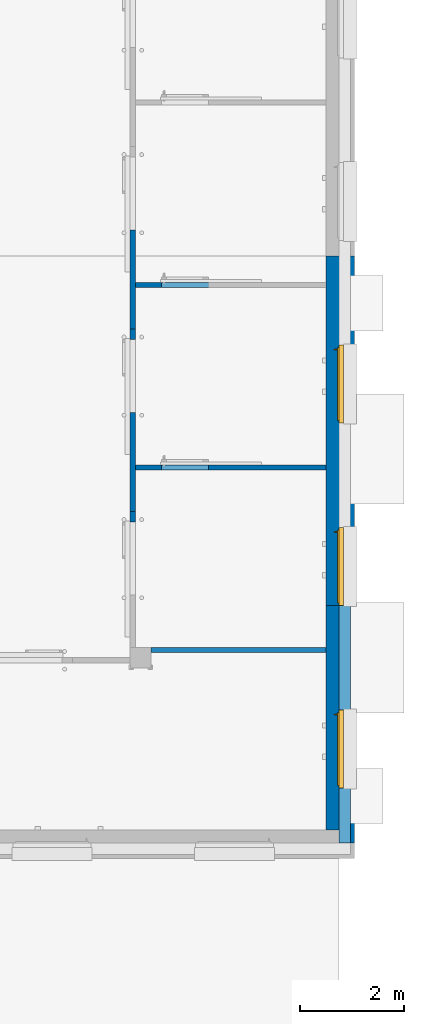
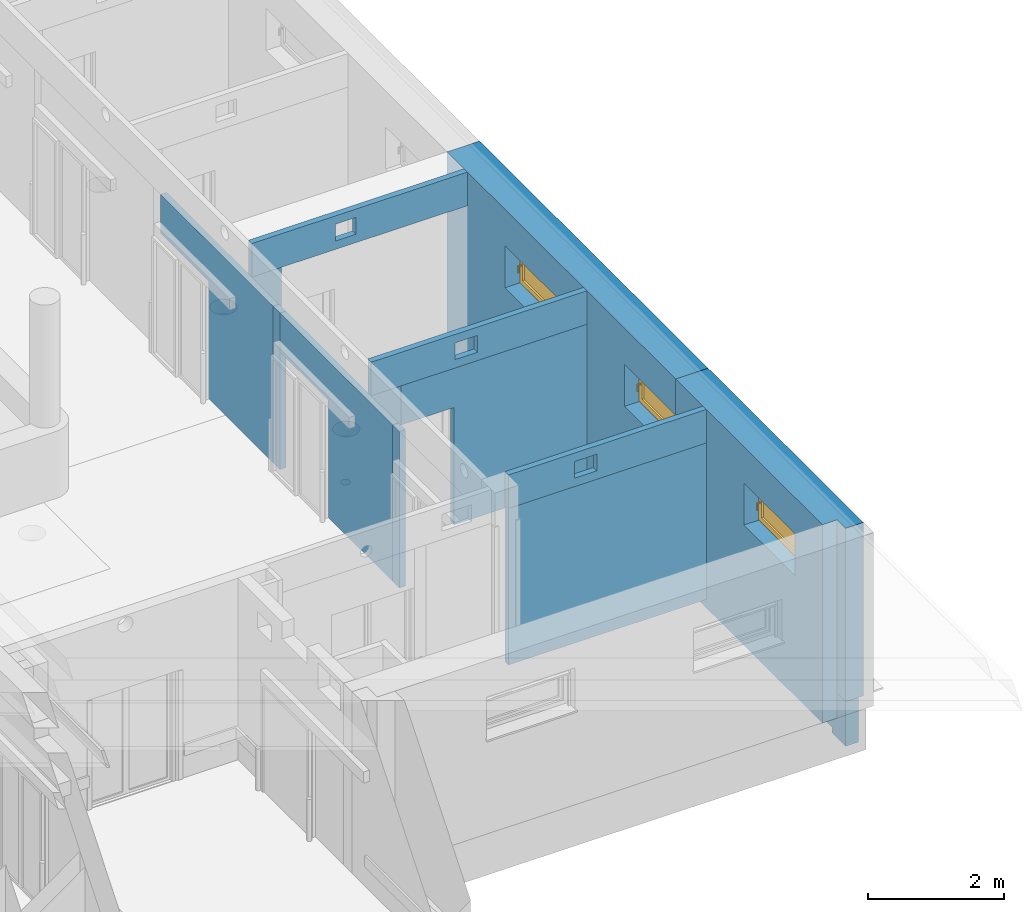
# One storey, part 57 of 140: 14 walls, 3 windows, 10 openings.
"""IFC4 building model written with IfcOpenShell, lengths in metres."""

from ifc_helpers import new_model, entity, si_unit, converted_unit, derived_unit, frame, frame_2d, origin, origin_with_axes, place, context, subcontext, project, spatial, polyline, rectangle, outline, extrude, clip, bounded_halfspace, closed_shell, open_shell, surface_model, source, transform, mapped, material, layer, layer_set, layer_usage, element, fill, save


model = new_model("IFC4")

# Units and contexts
model_context = context("Model", 3, precision=1e-05, world=origin())
body_context = subcontext(model_context, "Body", "Model", "MODEL_VIEW")
ifc_project = project(units=[si_unit("LENGTHUNIT", "METRE"), si_unit("AREAUNIT", "SQUARE_METRE"), si_unit("VOLUMEUNIT", "CUBIC_METRE"), si_unit("MASSUNIT", "GRAM", prefix="KILO"), converted_unit("PLANEANGLEUNIT", "DEGREE", entity("IfcPlaneAngleMeasure", 0.0174532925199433), si_unit("PLANEANGLEUNIT", "RADIAN"), dimensions=[0, 0, 0, 0, 0, 0, 0]), derived_unit("THERMALTRANSMITTANCEUNIT", [(si_unit("POWERUNIT", "WATT"), 1), (si_unit("THERMODYNAMICTEMPERATUREUNIT", "KELVIN"), -1), (si_unit("LENGTHUNIT", "METRE"), -2)]), derived_unit("VOLUMETRICFLOWRATEUNIT", [(si_unit("LENGTHUNIT", "METRE"), 3), (converted_unit("TIMEUNIT", "hour", entity("IfcTimeMeasure", 3600.0), si_unit("TIMEUNIT", "SECOND"), dimensions=[0, 0, 1, 0, 0, 0, 0]), -1), (si_unit("LENGTHUNIT", "METRE"), -1)])], contexts=[model_context])

# Site, building, storey
site_placement = place(None, origin())
site = spatial("IfcSite", under=ifc_project, at=site_placement, Name="3. ASŘ", CompositionType="ELEMENT")
building_placement = place(site_placement, origin())
building = spatial("IfcBuilding", under=site, at=building_placement, Name="Pavilon C", CompositionType="ELEMENT")
storey_placement = place(building_placement, origin())
storey = spatial("IfcBuildingStorey", under=building, at=storey_placement, Name="Půdorys 1.NP", CompositionType="ELEMENT", Elevation=0.0)

# Walls
ifc_material_1 = material(Name="PROSKLENÁ PŘÍČKA DVOJITÁ")
ifc_layer_1 = layer(ifc_material_1, 0.1)
ifc_layer_set_1 = layer_set([ifc_layer_1])
ifc_layer_usage_1 = layer_usage(ifc_layer_set_1, "AXIS2", "POSITIVE", 0.0)
wall_1_placement = place(storey_placement, frame((60.2, 9.99999999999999, 0.0)))
element("IfcWall", 1, at=wall_1_placement, inside=storey, material=ifc_layer_usage_1, Name="PROSKLENÁ PŘÍČKA DVOJITÁ", context=body_context, shape_type="SweptSolid", body=[
    extrude(rectangle(XDim=3.34999999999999, YDim=0.1, at=frame_2d((1.675, 0.05), x_axis=(1.0, 0.0))), origin_with_axes(), (0.0, 0.0, 1.0), 2.8),
])
ifc_material_2 = material(Name="PROSKLENÁ PŘÍČKA PLNÝ PANEL")
ifc_layer_2 = layer(ifc_material_2, 0.1)
ifc_layer_set_2 = layer_set([ifc_layer_2])
ifc_layer_usage_2 = layer_usage(ifc_layer_set_2, "AXIS2", "POSITIVE", 0.0)
wall_2_placement = place(storey_placement, frame((59.9, 12.5, 0.0), z_axis=(0.0, 0.0, 1.0), x_axis=(0.0, 1.0, 0.0)))
element("IfcWall", 2, at=wall_2_placement, inside=storey, material=ifc_layer_usage_2, Name="PROSKLENÁ PŘÍČKA DVOJITÁ", context=body_context, shape_type="SweptSolid", body=[
    extrude(rectangle(XDim=0.2, YDim=0.1, at=frame_2d((0.1, 0.05), x_axis=(1.0, 0.0))), origin_with_axes(), (0.0, 0.0, 1.0), 2.8),
])
ifc_material_3 = material(Name="PROSKLENÁ PŘÍČKA PLNÝ PANEL")
ifc_layer_3 = layer(ifc_material_3, 0.1)
ifc_layer_set_3 = layer_set([ifc_layer_3])
ifc_layer_usage_3 = layer_usage(ifc_layer_set_3, "AXIS2", "POSITIVE", 0.0)
wall_3_placement = place(storey_placement, frame((59.9, 16.0, 0.0), z_axis=(0.0, 0.0, 1.0), x_axis=(0.0, 1.0, 0.0)))
element("IfcWall", 3, at=wall_3_placement, inside=storey, material=ifc_layer_usage_3, Name="PROSKLENÁ PŘÍČKA DVOJITÁ", context=body_context, shape_type="SweptSolid", body=[
    extrude(rectangle(XDim=0.2, YDim=0.1, at=frame_2d((0.1, 0.05), x_axis=(1.0, 0.0))), origin_with_axes(), (0.0, 0.0, 1.0), 2.8),
])

# Wall, opening
ifc_material_4 = material(Name="PROSKLENÁ PŘÍČKA DVOJITÁ")
ifc_layer_4 = layer(ifc_material_4, 0.1)
ifc_layer_set_4 = layer_set([ifc_layer_4])
ifc_layer_usage_4 = layer_usage(ifc_layer_set_4, "AXIS2", "POSITIVE", 0.0)
wall_4_placement = place(storey_placement, frame((59.8, 19.5, 0.0), z_axis=(0.0, 0.0, 1.0), x_axis=(0.0, -1.0, 0.0)))
wall_4 = element("IfcWall", 4, at=wall_4_placement, inside=storey, material=ifc_layer_usage_4, Name="PROSKLENÁ PŘÍČKA DVOJITÁ", context=body_context, shape_type="SweptSolid", body=[
    extrude(rectangle(XDim=3.29999999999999, YDim=0.1, at=frame_2d((1.65, 0.05), x_axis=(1.0, 0.0))), origin_with_axes(), (0.0, 0.0, 1.0), 2.8),
])
opening_1_placement = place(wall_4_placement, frame((0.0, 0.0, 0.0), z_axis=(0.0, 1.0, 0.0), x_axis=(0.0, 0.0, 1.0)))
element("IfcOpeningElement", 5, at=opening_1_placement, cuts=wall_4, Name="Dveřní otvor", ObjectType="Opening", context=body_context, shape_type="SweptSolid", body=[
    extrude(outline(polyline([(0.0, 1.4), (2.1, 1.4), (2.1, 0.0), (0.0, 0.0), (0.0, 1.4)])), origin_with_axes(), (0.0, 0.0, 1.0), 0.1),
])

ifc_material_5 = material(Name="PROSKLENÁ PŘÍČKA DVOJITÁ")
ifc_layer_5 = layer(ifc_material_5, 0.1)
ifc_layer_set_5 = layer_set([ifc_layer_5])
ifc_layer_usage_5 = layer_usage(ifc_layer_set_5, "AXIS2", "POSITIVE", 0.0)
wall_5_placement = place(storey_placement, frame((59.8, 16.0, 0.0), z_axis=(0.0, 0.0, 1.0), x_axis=(0.0, -1.0, 0.0)))
wall_5 = element("IfcWall", 6, at=wall_5_placement, inside=storey, material=ifc_layer_usage_5, Name="PROSKLENÁ PŘÍČKA DVOJITÁ", context=body_context, shape_type="SweptSolid", body=[
    extrude(rectangle(XDim=3.30000000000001, YDim=0.1, at=frame_2d((1.65, 0.05), x_axis=(1.0, 0.0))), origin_with_axes(), (0.0, 0.0, 1.0), 2.8),
])
opening_2_placement = place(wall_5_placement, frame((0.0, 0.0, 0.0), z_axis=(0.0, 1.0, 0.0), x_axis=(0.0, 0.0, 1.0)))
element("IfcOpeningElement", 7, at=opening_2_placement, cuts=wall_5, Name="Dveřní otvor", ObjectType="Opening", context=body_context, shape_type="SweptSolid", body=[
    extrude(outline(polyline([(0.0, 1.4), (2.1, 1.4), (2.1, 0.0), (0.0, 0.0), (0.0, 1.4)])), origin_with_axes(), (0.0, 0.0, 1.0), 0.1),
])

# Walls
ifc_material_6 = material(Name="PROSKLENÁ PŘÍČKA PLNÝ PANEL")
ifc_layer_6 = layer(ifc_material_6, 0.1)
ifc_layer_set_6 = layer_set([ifc_layer_6])
ifc_layer_usage_6 = layer_usage(ifc_layer_set_6, "AXIS2", "POSITIVE", 0.0)
wall_6_placement = place(storey_placement, frame((60.4, 13.6, 0.0), z_axis=(0.0, 0.0, 1.0), x_axis=(-1.0, 0.0, 0.0)))
element("IfcWall", 8, at=wall_6_placement, inside=storey, material=ifc_layer_usage_6, Name="PROSKLENÁ PŘÍČKA DVOJITÁ", context=body_context, shape_type="SweptSolid", body=[
    extrude(rectangle(XDim=0.5, YDim=0.1, at=frame_2d((0.25, 0.05), x_axis=(1.0, 0.0))), origin_with_axes(), (0.0, 0.0, 1.0), 2.8),
])
ifc_material_7 = material(Name="PROSKLENÁ PŘÍČKA PLNÝ PANEL")
ifc_layer_7 = layer(ifc_material_7, 0.1)
ifc_layer_set_7 = layer_set([ifc_layer_7])
ifc_layer_usage_7 = layer_usage(ifc_layer_set_7, "AXIS2", "POSITIVE", 0.0)
wall_7_placement = place(storey_placement, frame((60.4, 17.1, 0.0), z_axis=(0.0, 0.0, 1.0), x_axis=(-1.0, 0.0, 0.0)))
element("IfcWall", 9, at=wall_7_placement, inside=storey, material=ifc_layer_usage_7, Name="PROSKLENÁ PŘÍČKA DVOJITÁ", context=body_context, shape_type="SweptSolid", body=[
    extrude(rectangle(XDim=0.5, YDim=0.1, at=frame_2d((0.25, 0.05), x_axis=(1.0, 0.0))), origin_with_axes(), (0.0, 0.0, 1.0), 2.8),
])

# Wall, opening
ifc_material_8 = material(Name="PROSKLENÁ PŘÍČKA DVOJITÁ")
ifc_layer_8 = layer(ifc_material_8, 0.1)
ifc_layer_set_8 = layer_set([ifc_layer_8])
ifc_layer_usage_8 = layer_usage(ifc_layer_set_8, "AXIS2", "POSITIVE", 0.0)
wall_8_placement = place(storey_placement, frame((60.4, 13.5, 0.0)))
wall_8 = element("IfcWall", 10, at=wall_8_placement, inside=storey, material=ifc_layer_usage_8, Name="PROSKLENÁ PŘÍČKA DVOJITÁ", context=body_context, shape_type="SweptSolid", body=[
    extrude(rectangle(XDim=3.15, YDim=0.1, at=frame_2d((1.575, 0.05), x_axis=(1.0, 0.0))), origin_with_axes(), (0.0, 0.0, 1.0), 2.8),
])
opening_3_placement = place(wall_8_placement, frame((0.0, 0.0, 0.0), z_axis=(0.0, 1.0, 0.0), x_axis=(0.0, 0.0, 1.0)))
element("IfcOpeningElement", 11, at=opening_3_placement, cuts=wall_8, Name="Dveřní otvor", ObjectType="Opening", context=body_context, shape_type="SweptSolid", body=[
    extrude(outline(polyline([(0.0, 0.9), (2.1, 0.9), (2.1, 0.0), (0.0, 0.0), (0.0, 0.9)])), origin_with_axes(), (0.0, 0.0, 1.0), 0.1),
])

# Wall, opening, window
ifc_material_9 = material(Name="ZELEZOBETONOVÁ KCE")
ifc_layer_9 = layer(ifc_material_9, 0.25)
ifc_material_10 = material(Name="MINERÁLNÍ VATA")
ifc_layer_10 = layer(ifc_material_10, 0.3)
ifc_layer_set_9 = layer_set([ifc_layer_9, ifc_layer_10])
ifc_layer_usage_9 = layer_usage(ifc_layer_set_9, "AXIS2", "POSITIVE", 0.0)
wall_9_placement = place(storey_placement, frame((63.55, 10.9, -0.15), z_axis=(0.0, 0.0, 1.0), x_axis=(0.0, -1.0, 0.0)))
wall_9 = element("IfcWall", 12, at=wall_9_placement, inside=storey, material=ifc_layer_usage_9, Name="ZELEZOBETONOVÁ KCE", context=body_context, shape_type="Clipping", body=[
    clip(extrude(outline(polyline([(-4.54999999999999, 0.0), (-0.25, 0.0), (-0.25, 0.25), (0.0, 0.25), (0.0, 0.55), (-4.54999999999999, 0.55), (-4.54999999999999, 0.0)])), frame((4.54999999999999, 0.0, 0.0), z_axis=(0.0, 0.0, 1.0), x_axis=(1.0, 0.0, 0.0)), (0.0, 0.0, 1.0), 3.55), bounded_halfspace(frame((2.67999999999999, 0.37, 0.45), z_axis=(0.0, 0.0, 1.0), x_axis=(0.0, -1.0, 0.0)), True, origin_with_axes(), polyline([(0.0, 0.55), (0.0, 0.249999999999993), (4.29999999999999, 0.249999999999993), (4.54999999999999, 0.25), (4.54999999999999, 0.55), (0.0, 0.55)]))),
])
opening_4_placement = place(wall_9_placement, frame((3.5, 0.25, 2.15), z_axis=(0.0, -1.0, 0.0), x_axis=(0.0, 0.0, 1.0)))
opening_4 = element("IfcOpeningElement", 13, at=opening_4_placement, cuts=wall_9, Name="Okenní otvor", ObjectType="Opening", context=body_context, shape_type="SweptSolid", body=[
    extrude(outline(polyline([(0.0, 1.5), (0.75, 1.5), (0.75, 0.0), (0.0, 0.0), (0.0, 1.5)])), origin_with_axes(), (0.0, 0.0, 1.0), 0.25),
    extrude(outline(polyline([(0.0, 1.5), (0.75, 1.5), (0.75, 0.0), (0.0, 0.0), (0.0, 1.5)])), frame((0.0, 0.0, -0.3), z_axis=(0.0, 0.0, 1.0), x_axis=(1.0, 0.0, 0.0)), (0.0, 0.0, 1.0), 0.3),
])
shared_shape = source(origin_with_axes(), body_context, "Body", "SurfaceModel", [
    surface_model("IfcShellBasedSurfaceModel", [(0.0, 0.0920000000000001, 0.75), (0.0, 0.092, -5.63337527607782e-18), (0.08, 0.092, -5.63337527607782e-18), (0.08, 0.0920000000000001, 0.75), (0.0, 0.0, 5.63337527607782e-18), (0.0, 8.5265128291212e-17, 0.75), (0.08, 8.5265128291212e-17, 0.75), (0.08, 0.0, 5.63337527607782e-18)], [closed_shell([[[0, 1, 2, 3]], [[4, 5, 6, 7]], [[1, 0, 5, 4]], [[2, 1, 4, 7]], [[3, 2, 7, 6]], [[0, 3, 6, 5]]], orient=[[False], [False], [False], [False], [False], [False]])]),
    surface_model("IfcShellBasedSurfaceModel", [(1.42, 0.0920000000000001, 0.75), (1.42, 0.092, -5.63337527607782e-18), (1.5, 0.092, -5.63337527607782e-18), (1.5, 0.0920000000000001, 0.75), (1.42, 0.0, 5.63337527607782e-18), (1.42, 8.5265128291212e-17, 0.75), (1.5, 8.5265128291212e-17, 0.75), (1.5, 0.0, 5.63337527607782e-18)], [closed_shell([[[0, 1, 2, 3]], [[4, 5, 6, 7]], [[1, 0, 5, 4]], [[2, 1, 4, 7]], [[3, 2, 7, 6]], [[0, 3, 6, 5]]], orient=[[False], [False], [False], [False], [False], [False]])]),
    surface_model("IfcShellBasedSurfaceModel", [(0.08, 0.092, 0.08), (0.08, 0.092, -5.63337527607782e-18), (1.42, 0.092, -5.63337527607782e-18), (1.42, 0.092, 0.08), (0.08, 0.0, 5.63337527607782e-18), (0.08, 1.4210854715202e-17, 0.08), (1.42, 1.4210854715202e-17, 0.08), (1.42, 0.0, 5.63337527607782e-18)], [closed_shell([[[0, 1, 2, 3]], [[4, 5, 6, 7]], [[1, 0, 5, 4]], [[2, 1, 4, 7]], [[3, 2, 7, 6]], [[0, 3, 6, 5]]], orient=[[False], [False], [False], [False], [False], [False]])]),
    surface_model("IfcShellBasedSurfaceModel", [(0.08, 0.0920000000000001, 0.75), (0.08, 0.0920000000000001, 0.67), (1.42, 0.0920000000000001, 0.67), (1.42, 0.0920000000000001, 0.75), (0.08, 8.5265128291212e-17, 0.67), (0.08, 9.9475983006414e-17, 0.75), (1.42, 9.9475983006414e-17, 0.75), (1.42, 8.5265128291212e-17, 0.67)], [closed_shell([[[0, 1, 2, 3]], [[4, 5, 6, 7]], [[1, 0, 5, 4]], [[2, 1, 4, 7]], [[3, 2, 7, 6]], [[0, 3, 6, 5]]], orient=[[False], [False], [False], [False], [False], [False]])]),
    surface_model("IfcShellBasedSurfaceModel", [(0.05, 0.122, 0.7), (0.05, 0.122, 0.05), (0.13, 0.122, 0.05), (0.13, 0.122, 0.7), (0.05, 0.037, 0.05), (0.05, 0.0370000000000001, 0.7), (0.13, 0.0370000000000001, 0.7), (0.13, 0.037, 0.05)], [closed_shell([[[0, 1, 2, 3]], [[4, 5, 6, 7]], [[1, 0, 5, 4]], [[2, 1, 4, 7]], [[3, 2, 7, 6]], [[0, 3, 6, 5]]], orient=[[False], [False], [False], [False], [False], [False]])]),
    surface_model("IfcShellBasedSurfaceModel", [(1.37, 0.122, 0.7), (1.37, 0.122, 0.05), (1.45, 0.122, 0.05), (1.45, 0.122, 0.7), (1.37, 0.037, 0.05), (1.37, 0.0370000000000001, 0.7), (1.45, 0.0370000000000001, 0.7), (1.45, 0.037, 0.05)], [closed_shell([[[0, 1, 2, 3]], [[4, 5, 6, 7]], [[1, 0, 5, 4]], [[2, 1, 4, 7]], [[3, 2, 7, 6]], [[0, 3, 6, 5]]], orient=[[False], [False], [False], [False], [False], [False]])]),
    surface_model("IfcShellBasedSurfaceModel", [(0.13, 0.122, 0.13), (0.13, 0.122, 0.05), (1.37, 0.122, 0.05), (1.37, 0.122, 0.13), (0.13, 0.037, 0.05), (0.13, 0.037, 0.13), (1.37, 0.037, 0.13), (1.37, 0.037, 0.05)], [closed_shell([[[0, 1, 2, 3]], [[4, 5, 6, 7]], [[1, 0, 5, 4]], [[2, 1, 4, 7]], [[3, 2, 7, 6]], [[0, 3, 6, 5]]], orient=[[False], [False], [False], [False], [False], [False]])]),
    surface_model("IfcShellBasedSurfaceModel", [(0.13, 0.122, 0.7), (0.13, 0.122, 0.62), (1.37, 0.122, 0.62), (1.37, 0.122, 0.7), (0.13, 0.0370000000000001, 0.62), (0.13, 0.0370000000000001, 0.7), (1.37, 0.0370000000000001, 0.7), (1.37, 0.0370000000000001, 0.62)], [closed_shell([[[0, 1, 2, 3]], [[4, 5, 6, 7]], [[1, 0, 5, 4]], [[2, 1, 4, 7]], [[3, 2, 7, 6]], [[0, 3, 6, 5]]], orient=[[False], [False], [False], [False], [False], [False]])]),
    surface_model("IfcShellBasedSurfaceModel", [(0.0775, 0.122, 0.4), (0.1025, 0.122, 0.4), (0.1025, 0.122, 0.36), (0.0775, 0.122, 0.36), (0.0775, 0.132, 0.36), (0.1025, 0.132, 0.36), (0.1025, 0.132, 0.4), (0.0775, 0.132, 0.4)], [closed_shell([[[0, 1, 2, 3]], [[4, 5, 6, 7]], [[3, 4, 7, 0]], [[2, 5, 4, 3]], [[1, 6, 5, 2]], [[0, 7, 6, 1]]], orient=[[False], [False], [False], [False], [False], [False]])]),
    surface_model("IfcShellBasedSurfaceModel", [(0.1, 0.132, 0.38), (0.0986602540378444, 0.132, 0.375), (0.095, 0.132, 0.371339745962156), (0.09, 0.132, 0.37), (0.085, 0.132, 0.371339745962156), (0.0813397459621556, 0.132, 0.375), (0.08, 0.132, 0.38), (0.0813397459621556, 0.132, 0.385), (0.085, 0.132, 0.388660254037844), (0.09, 0.132, 0.39), (0.095, 0.132, 0.388660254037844), (0.0986602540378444, 0.132, 0.385), (0.0986602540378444, 0.177, 0.385), (0.1, 0.172, 0.38), (0.095, 0.180660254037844, 0.388660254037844), (0.09, 0.182, 0.39), (0.085, 0.180660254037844, 0.388660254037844), (0.0813397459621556, 0.177, 0.385), (0.08, 0.172, 0.38), (0.0813397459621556, 0.167, 0.375), (0.085, 0.163339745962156, 0.371339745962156), (0.09, 0.162, 0.37), (0.095, 0.163339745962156, 0.371339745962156), (0.0986602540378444, 0.167, 0.375), (0.0986602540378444, 0.177, 0.265), (0.1, 0.172, 0.265), (0.095, 0.180660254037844, 0.265), (0.09, 0.182, 0.265), (0.085, 0.180660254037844, 0.265), (0.0813397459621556, 0.177, 0.265), (0.08, 0.172, 0.265), (0.0813397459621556, 0.167, 0.265), (0.085, 0.163339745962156, 0.265), (0.09, 0.162, 0.265), (0.095, 0.163339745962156, 0.265), (0.0986602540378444, 0.167, 0.265)], [open_shell([[[0, 1, 2, 3, 4, 5, 6, 7, 8, 9, 10, 11]], [[0, 11, 12, 13]], [[11, 10, 14, 12]], [[10, 9, 15, 14]], [[9, 8, 16, 15]], [[8, 7, 17, 16]], [[7, 6, 18, 17]], [[6, 5, 19, 18]], [[5, 4, 20, 19]], [[4, 3, 21, 20]], [[3, 2, 22, 21]], [[2, 1, 23, 22]], [[1, 0, 13, 23]], [[13, 12, 24, 25]], [[12, 14, 26, 24]], [[14, 15, 27, 26]], [[15, 16, 28, 27]], [[16, 17, 29, 28]], [[17, 18, 30, 29]], [[18, 19, 31, 30]], [[19, 20, 32, 31]], [[20, 21, 33, 32]], [[21, 22, 34, 33]], [[22, 23, 35, 34]], [[23, 13, 25, 35]]], orient=[[False], [False], [False], [False], [False], [False], [False], [False], [False], [False], [False], [False], [False], [False], [False], [False], [False], [False], [False], [False], [False], [False], [False], [False], [False]])]),
    surface_model("IfcShellBasedSurfaceModel", [(0.13, 0.0895, 0.62), (0.13, 0.0895, 0.13), (1.37, 0.0895, 0.13), (1.37, 0.0895, 0.62), (0.13, 0.0695, 0.13), (0.13, 0.0695, 0.62), (1.37, 0.0695, 0.62), (1.37, 0.0695, 0.13)], [closed_shell([[[0, 1, 2, 3]], [[4, 5, 6, 7]], [[1, 0, 5, 4]], [[2, 1, 4, 7]], [[3, 2, 7, 6]], [[0, 3, 6, 5]]], orient=[[False], [False], [False], [False], [False], [False]])]),
])
window_1_placement = place(opening_4_placement, frame((0.0, 1.5, -0.0919999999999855), z_axis=(1.0, 0.0, 0.0), x_axis=(0.0, -1.0, 1.22464679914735e-16)))
window_1 = element("IfcWindow", 14, at=window_1_placement, inside=storey, Name="I.OH01", OverallHeight=0.75, OverallWidth=1.5, PartitioningType="USERDEFINED", PredefinedType="WINDOW", context=body_context, shape_type="MappedRepresentation", body=[
    mapped(shared_shape, transform((0.0, 0.0, 0.0), x_axis=(1.0, 0.0, 0.0), y_axis=(0.0, -1.0, 0.0), z_axis=(0.0, 0.0, 1.0), scale=1.0)),
])
fill(opening_4, window_1)

# Wall, openings, windows
ifc_material_11 = material(Name="ZELEZOBETONOVÁ KCE")
ifc_layer_11 = layer(ifc_material_11, 0.25)
ifc_material_12 = material(Name="MINERÁLNÍ VATA")
ifc_layer_12 = layer(ifc_material_12, 0.3)
ifc_layer_set_10 = layer_set([ifc_layer_11, ifc_layer_12])
ifc_layer_usage_10 = layer_usage(ifc_layer_set_10, "AXIS2", "POSITIVE", 0.0)
wall_10_placement = place(storey_placement, frame((63.55, 17.6, -0.15), z_axis=(0.0, 0.0, 1.0), x_axis=(0.0, -1.0, 0.0)))
wall_10 = element("IfcWall", 15, at=wall_10_placement, inside=storey, material=ifc_layer_usage_10, Name="ZELEZOBETONOVÁ KCE", context=body_context, shape_type="Clipping", body=[
    clip(extrude(rectangle(XDim=6.7, YDim=0.55, at=frame_2d((3.35, 0.275), x_axis=(1.0, 0.0))), origin_with_axes(), (0.0, 0.0, 1.0), 3.55), bounded_halfspace(frame((3.35, 0.4, 0.87), z_axis=(1.69681847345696e-17, -3.78956125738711e-16, 1.0), x_axis=(0.0, -1.0, 0.0)), True, origin_with_axes(), polyline([(0.0, 0.55), (0.0, 0.249999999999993), (6.7, 0.249999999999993), (6.7, 0.55), (0.0, 0.55)]))),
])
opening_5_placement = place(wall_10_placement, frame((6.7, 0.25, 2.15), z_axis=(0.0, -1.0, 0.0), x_axis=(0.0, 0.0, 1.0)))
opening_5 = element("IfcOpeningElement", 16, at=opening_5_placement, cuts=wall_10, Name="Okenní otvor", ObjectType="Opening", context=body_context, shape_type="SweptSolid", body=[
    extrude(outline(polyline([(0.0, 1.5), (0.75, 1.5), (0.75, 0.0), (0.0, 0.0), (0.0, 1.5)])), origin_with_axes(), (0.0, 0.0, 1.0), 0.25),
    extrude(outline(polyline([(0.0, 1.5), (0.75, 1.5), (0.75, 0.0), (0.0, 0.0), (0.0, 1.5)])), frame((0.0, 0.0, -0.3), z_axis=(0.0, 0.0, 1.0), x_axis=(1.0, 0.0, 0.0)), (0.0, 0.0, 1.0), 0.3),
])
opening_6_placement = place(wall_10_placement, frame((3.2, 0.25, 2.15), z_axis=(0.0, -1.0, 0.0), x_axis=(0.0, 0.0, 1.0)))
opening_6 = element("IfcOpeningElement", 17, at=opening_6_placement, cuts=wall_10, Name="Okenní otvor", ObjectType="Opening", context=body_context, shape_type="SweptSolid", body=[
    extrude(outline(polyline([(0.0, 1.5), (0.75, 1.5), (0.75, 0.0), (0.0, 0.0), (0.0, 1.5)])), origin_with_axes(), (0.0, 0.0, 1.0), 0.25),
    extrude(outline(polyline([(0.0, 1.5), (0.75, 1.5), (0.75, 0.0), (0.0, 0.0), (0.0, 1.5)])), frame((0.0, 0.0, -0.3), z_axis=(0.0, 0.0, 1.0), x_axis=(1.0, 0.0, 0.0)), (0.0, 0.0, 1.0), 0.3),
])
window_2_placement = place(opening_5_placement, frame((0.0, 1.5, -0.0919999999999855), z_axis=(1.0, 0.0, 0.0), x_axis=(0.0, -1.0, 1.22464679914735e-16)))
window_2 = element("IfcWindow", 18, at=window_2_placement, inside=storey, Name="I.OH01", OverallHeight=0.75, OverallWidth=1.5, PartitioningType="USERDEFINED", PredefinedType="WINDOW", context=body_context, shape_type="MappedRepresentation", body=[
    mapped(shared_shape, transform((0.0, 0.0, 0.0), x_axis=(1.0, 0.0, 0.0), y_axis=(0.0, -1.0, 0.0), z_axis=(0.0, 0.0, 1.0), scale=1.0)),
])
fill(opening_5, window_2)
window_3_placement = place(opening_6_placement, frame((0.0, 1.5, -0.0919999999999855), z_axis=(1.0, 0.0, 0.0), x_axis=(0.0, -1.0, 1.22464679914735e-16)))
window_3 = element("IfcWindow", 19, at=window_3_placement, inside=storey, Name="I.OH01", OverallHeight=0.75, OverallWidth=1.5, PartitioningType="USERDEFINED", PredefinedType="WINDOW", context=body_context, shape_type="MappedRepresentation", body=[
    mapped(shared_shape, transform((0.0, 0.0, 0.0), x_axis=(1.0, 0.0, 0.0), y_axis=(0.0, -1.0, 0.0), z_axis=(0.0, 0.0, 1.0), scale=1.0)),
])
fill(opening_6, window_3)

# Wall, opening
ifc_material_13 = material(Name="PERIMETR")
ifc_layer_13 = layer(ifc_material_13, 0.22)
ifc_layer_set_11 = layer_set([ifc_layer_13])
ifc_layer_usage_11 = layer_usage(ifc_layer_set_11, "AXIS2", "POSITIVE", 0.0)
wall_11_placement = place(storey_placement, frame((63.8, 10.9, -0.5), z_axis=(0.0, 0.0, 1.0), x_axis=(0.0, -1.0, 0.0)))
wall_11 = element("IfcWall", 20, at=wall_11_placement, inside=storey, material=ifc_layer_usage_11, Name="PERIMETR", context=body_context, shape_type="SweptSolid", body=[
    extrude(rectangle(XDim=4.54999999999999, YDim=0.22, at=frame_2d((2.275, 0.11), x_axis=(1.0, 0.0))), origin_with_axes(), (0.0, 0.0, 1.0), 0.8),
])
opening_7_placement = place(wall_11_placement, frame((4.15000000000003, 0.22, 0.0), z_axis=(0.0, -1.0, 0.0), x_axis=(0.0, 0.0, 1.0)))
element("IfcOpeningElement", 21, at=opening_7_placement, cuts=wall_11, Name="Prostup stěnou", ObjectType="Opening", context=body_context, shape_type="SweptSolid", body=[
    extrude(outline(polyline([(0.0, 1.0), (0.1, 1.0), (0.1, 0.0), (0.0, 0.0), (0.0, 1.0)])), origin_with_axes(), (0.0, 0.0, 1.0), 0.22),
])

ifc_material_14 = material(Name="SDK - OCEL. KCE + 2 OPLÁŠTĚNÍ")
ifc_layer_14 = layer(ifc_material_14, 0.1)
ifc_layer_set_12 = layer_set([ifc_layer_14])
ifc_layer_usage_12 = layer_usage(ifc_layer_set_12, "AXIS2", "POSITIVE", 0.0)
wall_12_placement = place(storey_placement, frame((60.2, 9.99999999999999, 2.8)))
wall_12 = element("IfcWall", 22, at=wall_12_placement, inside=storey, material=ifc_layer_usage_12, Name="SDK - OCEL. KCE + 2 OPLÁŠTĚNÍ", context=body_context, shape_type="SweptSolid", body=[
    extrude(rectangle(XDim=3.34999999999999, YDim=0.1, at=frame_2d((1.675, 0.05), x_axis=(1.0, 0.0))), origin_with_axes(), (0.0, 0.0, 1.0), 0.6),
])
opening_8_placement = place(wall_12_placement, frame((1.11555377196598, -7.27595761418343e-15, 0.15), z_axis=(0.0, 1.0, 0.0), x_axis=(0.0, 0.0, 1.0)))
element("IfcOpeningElement", 23, at=opening_8_placement, cuts=wall_12, Name="VZT", ObjectType="Opening", context=body_context, shape_type="SweptSolid", body=[
    extrude(outline(polyline([(0.0, 0.38), (0.3, 0.38), (0.3, 0.0), (0.0, 0.0), (0.0, 0.38)])), origin_with_axes(), (0.0, 0.0, 1.0), 0.1),
])

ifc_material_15 = material(Name="SDK - OCEL. KCE + 2 OPLÁŠTĚNÍ")
ifc_layer_15 = layer(ifc_material_15, 0.1)
ifc_layer_set_13 = layer_set([ifc_layer_15])
ifc_layer_usage_13 = layer_usage(ifc_layer_set_13, "AXIS2", "POSITIVE", 0.0)
wall_13_placement = place(storey_placement, frame((59.9, 17.0, 2.8)))
wall_13 = element("IfcWall", 24, at=wall_13_placement, inside=storey, material=ifc_layer_usage_13, Name="SDK - OCEL. KCE + 2 OPLÁŠTĚNÍ", context=body_context, shape_type="SweptSolid", body=[
    extrude(rectangle(XDim=3.65, YDim=0.1, at=frame_2d((1.825, 0.05), x_axis=(1.0, 0.0))), origin_with_axes(), (0.0, 0.0, 1.0), 0.6),
])
opening_9_placement = place(wall_13_placement, frame((1.41555377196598, -7.27595761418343e-15, 0.15), z_axis=(0.0, 1.0, 0.0), x_axis=(0.0, 0.0, 1.0)))
element("IfcOpeningElement", 25, at=opening_9_placement, cuts=wall_13, Name="VZT", ObjectType="Opening", context=body_context, shape_type="SweptSolid", body=[
    extrude(outline(polyline([(0.0, 0.35), (0.3, 0.35), (0.3, 0.0), (0.0, 0.0), (0.0, 0.35)])), origin_with_axes(), (0.0, 0.0, 1.0), 0.1),
])

ifc_material_16 = material(Name="SDK - OCEL. KCE + 2 OPLÁŠTĚNÍ")
ifc_layer_16 = layer(ifc_material_16, 0.1)
ifc_layer_set_14 = layer_set([ifc_layer_16])
ifc_layer_usage_14 = layer_usage(ifc_layer_set_14, "AXIS2", "POSITIVE", 0.0)
wall_14_placement = place(storey_placement, frame((59.9, 13.5, 2.8)))
wall_14 = element("IfcWall", 26, at=wall_14_placement, inside=storey, material=ifc_layer_usage_14, Name="SDK - OCEL. KCE + 2 OPLÁŠTĚNÍ", context=body_context, shape_type="SweptSolid", body=[
    extrude(rectangle(XDim=3.65, YDim=0.1, at=frame_2d((1.825, 0.05), x_axis=(1.0, 0.0))), origin_with_axes(), (0.0, 0.0, 1.0), 0.6),
])
opening_10_placement = place(wall_14_placement, frame((1.41555377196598, 0.0, 0.15), z_axis=(0.0, 1.0, 0.0), x_axis=(0.0, 0.0, 1.0)))
element("IfcOpeningElement", 27, at=opening_10_placement, cuts=wall_14, Name="VZT", ObjectType="Opening", context=body_context, shape_type="SweptSolid", body=[
    extrude(outline(polyline([(0.0, 0.38), (0.3, 0.38), (0.3, 0.0), (0.0, 0.0), (0.0, 0.38)])), origin_with_axes(), (0.0, 0.0, 1.0), 0.1),
])

save(model, "model.ifc")
